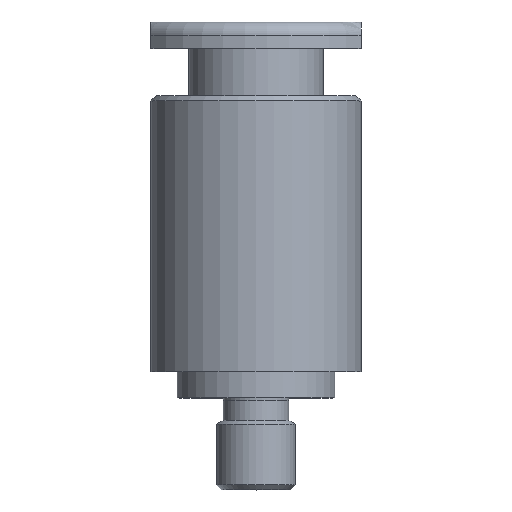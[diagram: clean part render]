
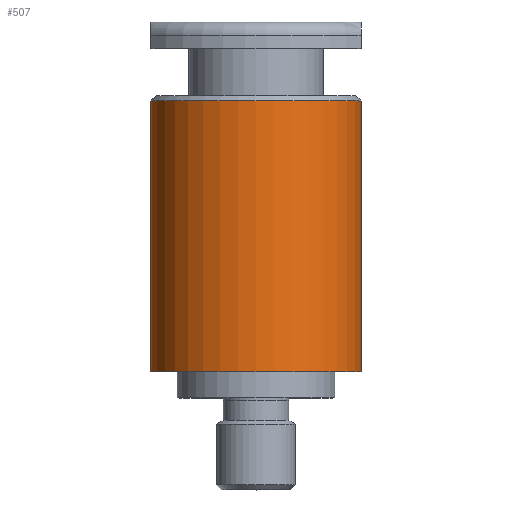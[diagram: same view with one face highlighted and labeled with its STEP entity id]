
A CAD part, top view. The second image highlights one B-rep face of the part: STEP entity #507.
In plain terms, the highlighted cylindrical face has radius 4 mm (diameter 8 mm), a full revolution.
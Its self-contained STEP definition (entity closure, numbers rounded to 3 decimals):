
#43=CYLINDRICAL_SURFACE('',#582,4.);
#60=FACE_OUTER_BOUND('',#91,.T.);
#91=EDGE_LOOP('',(#388,#389,#390,#391,#392,#393));
#121=LINE('',#877,#143);
#143=VECTOR('',#708,4.);
#180=CIRCLE('',#576,4.);
#181=CIRCLE('',#577,4.);
#185=CIRCLE('',#583,4.);
#186=CIRCLE('',#584,4.);
#228=VERTEX_POINT('',#860);
#229=VERTEX_POINT('',#861);
#233=VERTEX_POINT('',#873);
#234=VERTEX_POINT('',#874);
#288=EDGE_CURVE('',#228,#229,#180,.T.);
#289=EDGE_CURVE('',#229,#228,#181,.T.);
#294=EDGE_CURVE('',#233,#234,#185,.T.);
#295=EDGE_CURVE('',#234,#233,#186,.T.);
#296=EDGE_CURVE('',#234,#229,#121,.T.);
#388=ORIENTED_EDGE('',*,*,#294,.F.);
#389=ORIENTED_EDGE('',*,*,#295,.F.);
#390=ORIENTED_EDGE('',*,*,#296,.T.);
#391=ORIENTED_EDGE('',*,*,#288,.F.);
#392=ORIENTED_EDGE('',*,*,#289,.F.);
#393=ORIENTED_EDGE('',*,*,#296,.F.);
#507=ADVANCED_FACE('',(#60),#43,.T.);
#576=AXIS2_PLACEMENT_3D('',#862,#689,#690);
#577=AXIS2_PLACEMENT_3D('',#863,#691,#692);
#582=AXIS2_PLACEMENT_3D('',#872,#702,#703);
#583=AXIS2_PLACEMENT_3D('',#875,#704,#705);
#584=AXIS2_PLACEMENT_3D('',#876,#706,#707);
#689=DIRECTION('center_axis',(0.,1.,0.));
#690=DIRECTION('ref_axis',(-1.,0.,0.));
#691=DIRECTION('center_axis',(0.,1.,0.));
#692=DIRECTION('ref_axis',(-1.,0.,0.));
#702=DIRECTION('center_axis',(0.,-1.,0.));
#703=DIRECTION('ref_axis',(1.,0.,0.));
#704=DIRECTION('center_axis',(0.,-1.,0.));
#705=DIRECTION('ref_axis',(1.,0.,0.));
#706=DIRECTION('center_axis',(0.,-1.,0.));
#707=DIRECTION('ref_axis',(1.,0.,0.));
#708=DIRECTION('',(0.,1.,0.));
#860=CARTESIAN_POINT('',(4.,14.8,0.));
#861=CARTESIAN_POINT('',(-4.,14.8,0.));
#862=CARTESIAN_POINT('Origin',(0.,14.8,0.));
#863=CARTESIAN_POINT('Origin',(0.,14.8,0.));
#872=CARTESIAN_POINT('Origin',(0.,9.75,0.));
#873=CARTESIAN_POINT('',(4.,4.5,0.));
#874=CARTESIAN_POINT('',(-4.,4.5,0.));
#875=CARTESIAN_POINT('Origin',(0.,4.5,0.));
#876=CARTESIAN_POINT('Origin',(0.,4.5,0.));
#877=CARTESIAN_POINT('',(-4.,9.75,0.));
